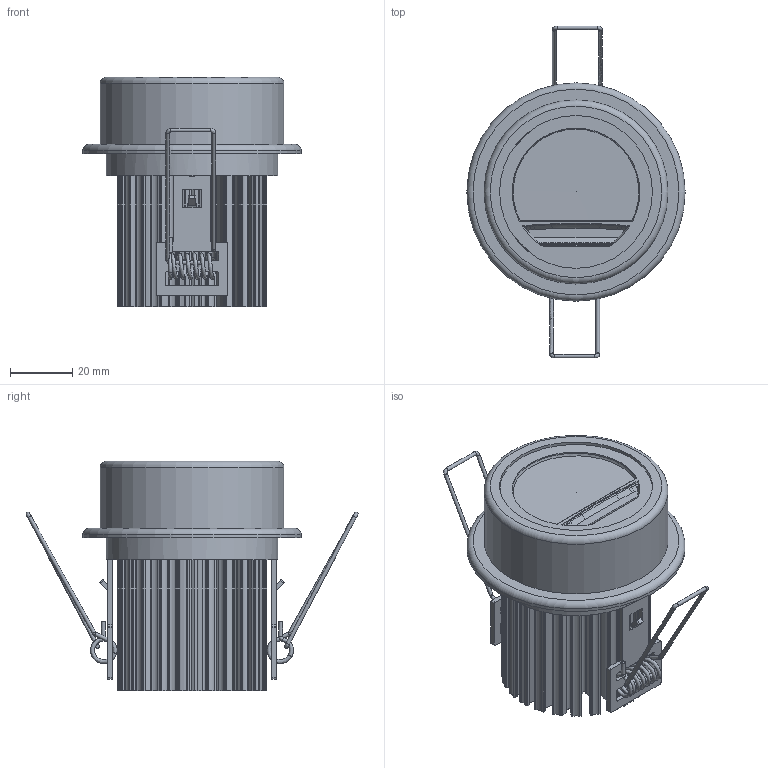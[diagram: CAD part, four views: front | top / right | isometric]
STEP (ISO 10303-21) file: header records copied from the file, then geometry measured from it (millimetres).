
FILE_DESCRIPTION(/* description */ (''),/* implementation_level */ '2;1');
FILE_NAME(/* name */ 'C:/Users/elena/OneDrive/Allegati di posta elettronica/Desktop/Michelangelo recessed.step',/* time_stamp */ '2020-05-28T15:38:54+02:00',/* author */ (''),/* organization */ (''),/* preprocessor_version */ 'ST-DEVELOPER v18.1',/* originating_system */ 'Autodesk Translation Framework v9.3.0.1241',/* authorisation */ '');
FILE_SCHEMA (('AUTOMOTIVE_DESIGN { 1 0 10303 214 3 1 1 }'));
Length unit declared in the file: millimetre
Products named in the file (1): Pubblico
Bounding box: 70 x 106.44 x 73.5 mm (x, y, z)
Volume: 90171 mm3; surface area: 67830.5 mm2
Topology: 7 solids, 7 shells, 967 faces, 2584 edges, 1687 vertices
Faces by surface type: cylinder 424, plane 245, bspline 212, sphere 62, torus 13, cone 11
Full cylindrical faces by diameter (mm): 1.2 x2, 48.26 x1, 48.989 x1, 51 x1, 54.989 x2, 55 x1, 58.989 x1, 70 x1
Entity records: 50119 total; most frequent: CARTESIAN_POINT 26130, ORIENTED_EDGE 5166, DIRECTION 4855, EDGE_CURVE 2583, AXIS2_PLACEMENT_3D 1848, VERTEX_POINT 1687, LINE 1159, VECTOR 1159
